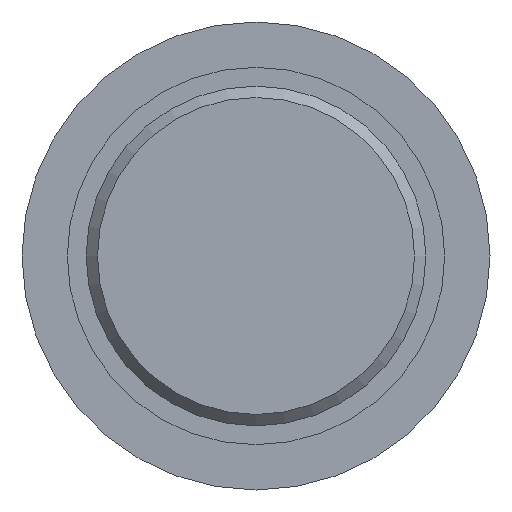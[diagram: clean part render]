
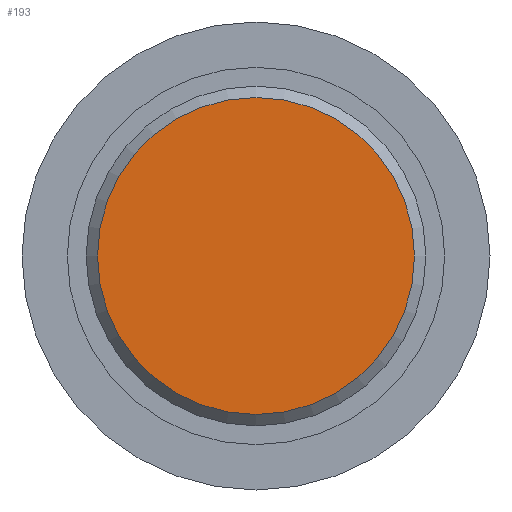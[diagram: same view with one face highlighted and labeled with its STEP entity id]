
A CAD part, front view. The second image highlights one B-rep face of the part: STEP entity #193.
In plain terms, the highlighted planar face has unit normal (0, -1, 0).
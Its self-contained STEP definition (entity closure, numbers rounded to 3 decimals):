
#94 = CONICAL_SURFACE('',#95,22.5,0.785);
#95 = AXIS2_PLACEMENT_3D('',#96,#97,#98);
#96 = CARTESIAN_POINT('',(0.,-88.5,0.));
#97 = DIRECTION('',(0.,1.,0.));
#98 = DIRECTION('',(1.,0.,-0.));
#110 = VERTEX_POINT('',#111);
#111 = CARTESIAN_POINT('',(21.,-90.,0.));
#132 = EDGE_CURVE('',#110,#110,#133,.T.);
#133 = SURFACE_CURVE('',#134,(#139,#146),.PCURVE_S1.);
#134 = CIRCLE('',#135,21.);
#135 = AXIS2_PLACEMENT_3D('',#136,#137,#138);
#136 = CARTESIAN_POINT('',(0.,-90.,0.));
#137 = DIRECTION('',(0.,1.,0.));
#138 = DIRECTION('',(1.,0.,-0.));
#139 = PCURVE('',#94,#140);
#140 = DEFINITIONAL_REPRESENTATION('',(#141),#145);
#141 = LINE('',#142,#143);
#142 = CARTESIAN_POINT('',(0.,-1.5));
#143 = VECTOR('',#144,1.);
#144 = DIRECTION('',(1.,-0.));
#145 = ( GEOMETRIC_REPRESENTATION_CONTEXT(2) 
PARAMETRIC_REPRESENTATION_CONTEXT() REPRESENTATION_CONTEXT('2D SPACE',''
  ) );
#146 = PCURVE('',#147,#152);
#147 = PLANE('',#148);
#148 = AXIS2_PLACEMENT_3D('',#149,#150,#151);
#149 = CARTESIAN_POINT('',(0.,-90.,0.));
#150 = DIRECTION('',(0.,1.,0.));
#151 = DIRECTION('',(1.,0.,-0.));
#152 = DEFINITIONAL_REPRESENTATION('',(#153),#157);
#153 = CIRCLE('',#154,21.);
#154 = AXIS2_PLACEMENT_2D('',#155,#156);
#155 = CARTESIAN_POINT('',(0.,0.));
#156 = DIRECTION('',(1.,0.));
#157 = ( GEOMETRIC_REPRESENTATION_CONTEXT(2) 
PARAMETRIC_REPRESENTATION_CONTEXT() REPRESENTATION_CONTEXT('2D SPACE',''
  ) );
#193 = ADVANCED_FACE('',(#194),#147,.F.);
#194 = FACE_BOUND('',#195,.F.);
#195 = EDGE_LOOP('',(#196));
#196 = ORIENTED_EDGE('',*,*,#132,.T.);
